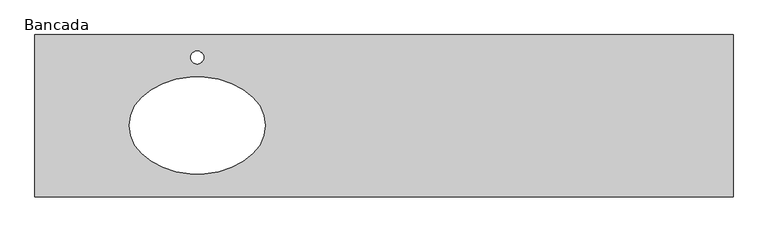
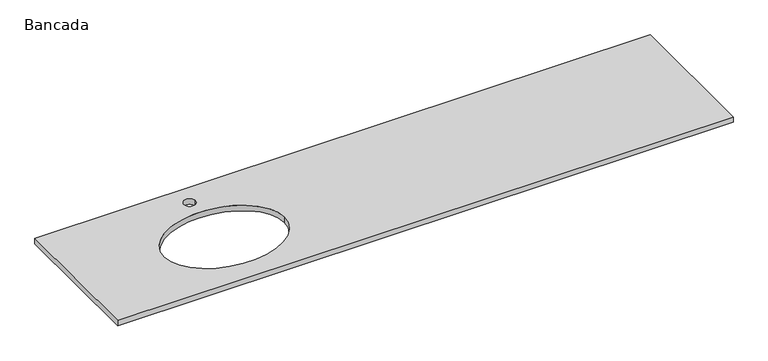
"""IFC4 building model written with IfcOpenShell, lengths in millimetres: furniture geometry, Bancada lavatorio duplo : Bancada."""

from ifc_helpers import new_model, si_unit, point, frame, origin, place, context, project, spatial, polyline, circle_curve, ellipse_curve, trimmed, source, transform, mapped, element, save
from ifc_brep_helpers import plane_surface, revolved_surface, extruded_surface, advanced_brep


def bancada_f9a04eb4(model_context):
    return source(origin(), model_context, "Body", "AdvancedBrep", [
        advanced_brep(
        [(1574.7003264, -500.0, 1000.0), (1574.7003264, 0.0, 1000.0), (-575.2996736, 0.0, 1000.0), (-575.2996736, -500.0, 1000.0), (-55.4142184, -70.0, 1000.0), (-95.4142184, -70.0, 1000.0), (-285.2996736, -279.7230202, 1000.0), (134.7003264, -279.7230202, 1000.0), (1574.7003264, -500.0, 980.0), (-575.2996736, -500.0, 980.0), (-575.2996736, 0.0, 980.0), (1574.7003264, 0.0, 980.0), (-95.4142184, -70.0, 980.0), (-55.4142184, -70.0, 980.0), (134.7003264, -279.7230202, 980.0), (-285.2996736, -279.7230202, 980.0)],
        [
            (0, 1),
            (1, 2),
            (2, 3),
            (3, 0),
            (4, 5, circle_curve(frame((-75.4142184, -70.0, 1000.0), z_axis=(0.0, 0.0, -1.0), x_axis=(1.0, 0.0, 0.0)), 20.0)),
            (5, 4, circle_curve(frame((-75.4142184, -70.0, 1000.0), z_axis=(0.0, 0.0, -1.0), x_axis=(1.0, 0.0, 0.0)), 20.0)),
            (6, 7, ellipse_curve(frame((-75.2996736, -279.7230202, 1000.0), z_axis=(0.0, 0.0, -1.0), x_axis=(-1.0, 0.0, 0.0)), 210.0, 150.0)),
            (7, 6, ellipse_curve(frame((-75.2996736, -279.7230202, 1000.0), z_axis=(0.0, 0.0, -1.0), x_axis=(-1.0, 0.0, 0.0)), 210.0, 150.0)),
            (8, 9),
            (9, 10),
            (10, 11),
            (11, 8),
            (12, 13, circle_curve(frame((-75.4142184, -70.0, 980.0), z_axis=(0.0, 0.0, 1.0), x_axis=(1.0, 0.0, 0.0)), 20.0)),
            (13, 12, circle_curve(frame((-75.4142184, -70.0, 980.0), z_axis=(0.0, 0.0, 1.0), x_axis=(1.0, 0.0, 0.0)), 20.0)),
            (14, 15, ellipse_curve(frame((-75.2996736, -279.7230202, 980.0), z_axis=(0.0, 0.0, 1.0), x_axis=(-1.0, 0.0, 0.0)), 210.0, 150.0)),
            (15, 14, ellipse_curve(frame((-75.2996736, -279.7230202, 980.0), z_axis=(0.0, 0.0, 1.0), x_axis=(-1.0, 0.0, 0.0)), 210.0, 150.0)),
            (0, 8),
            (11, 1),
            (10, 2),
            (9, 3),
            (12, 5),
            (4, 13),
            (14, 7),
            (6, 15),
        ],
        [
            plane_surface(frame((1574.7003264, -500.0, 1000.0), z_axis=(0.0, 0.0, 1.0), x_axis=(0.0, 1.0, 0.0))),
            plane_surface(frame((1574.7003264, -500.0, 980.0), z_axis=(0.0, 0.0, -1.0), x_axis=(0.0, -1.0, 0.0))),
            plane_surface(frame((1574.7003264, -500.0, 1000.0), z_axis=(1.0, 0.0, 0.0), x_axis=(0.0, 0.0, -1.0))),
            plane_surface(frame((1574.7003264, 0.0, 1000.0), z_axis=(0.0, 1.0, 0.0), x_axis=(0.0, 0.0, -1.0))),
            plane_surface(frame((-575.2996736, 0.0, 1000.0), z_axis=(-1.0, 0.0, 0.0), x_axis=(0.0, 0.0, -1.0))),
            plane_surface(frame((-575.2996736, -500.0, 1000.0), z_axis=(0.0, -1.0, 0.0), x_axis=(0.0, 0.0, -1.0))),
            revolved_surface(polyline([(-55.414218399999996, -70.0, 1000.0), (-55.414218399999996, -70.0, 980.0)]), (-75.4142184, -70.0, 680.0), (0.0, 0.0, 1.0)),
            extruded_surface(trimmed(ellipse_curve(frame((-75.2996736, -279.7230202, 680.0), z_axis=(0.0, 0.0, 1.0), x_axis=(-1.0, 0.0, 0.0)), 210.0, 150.0), [point((134.7003264, -279.7230202, 680.0))], [point((-285.2996736, -279.7230202, 680.0))], True, "CARTESIAN"), (0.0, 0.0, -320.0), 320.0),
            extruded_surface(trimmed(ellipse_curve(frame((-75.2996736, -279.7230202, 680.0), z_axis=(0.0, 0.0, 1.0), x_axis=(-1.0, 0.0, 0.0)), 210.0, 150.0), [point((-285.2996736, -279.7230202, 680.0))], [point((134.7003264, -279.7230202, 680.0))], True, "CARTESIAN"), (0.0, 0.0, -320.0), 320.0),
        ],
        [
            (0, [[1, 2, 3, 4], [5, 6], [7, 8]]),
            (1, [[9, 10, 11, 12], [13, 14], [15, 16]]),
            (2, [[-1, 17, -12, 18]]),
            (3, [[-2, -18, -11, 19]]),
            (4, [[-3, -19, -10, 20]]),
            (5, [[-4, -20, -9, -17]]),
            (6, [[21, -5, 22, -13]]),
            (6, [[-21, -14, -22, -6]]),
            (7, [[23, -7, 24, -15]]),
            (8, [[-23, -16, -24, -8]]),
        ],
    ),
    ])


if __name__ == "__main__":
    model = new_model("IFC4")
    model_context = context("Model", 3, world=origin())
    ifc_project = project(units=[si_unit("LENGTHUNIT", "METRE", prefix="MILLI")], contexts=[model_context])
    site = spatial("IfcSite", under=ifc_project)
    building = spatial("IfcBuilding", under=site)
    placement = place(None, origin())
    bancada_shape = bancada_f9a04eb4(model_context)
    element("IfcFurniture", 1, ObjectType="Bancada lavatorio duplo : Bancada", at=placement, inside=building, context=model_context, shape_type="MappedRepresentation", body=[
        mapped(bancada_shape, transform((0.0, 0.0, 0.0), x_axis=(1.0, 0.0, 0.0), y_axis=(0.0, 1.0, 0.0), z_axis=(0.0, 0.0, 1.0))),
    ])
    save(model, "model.ifc")
